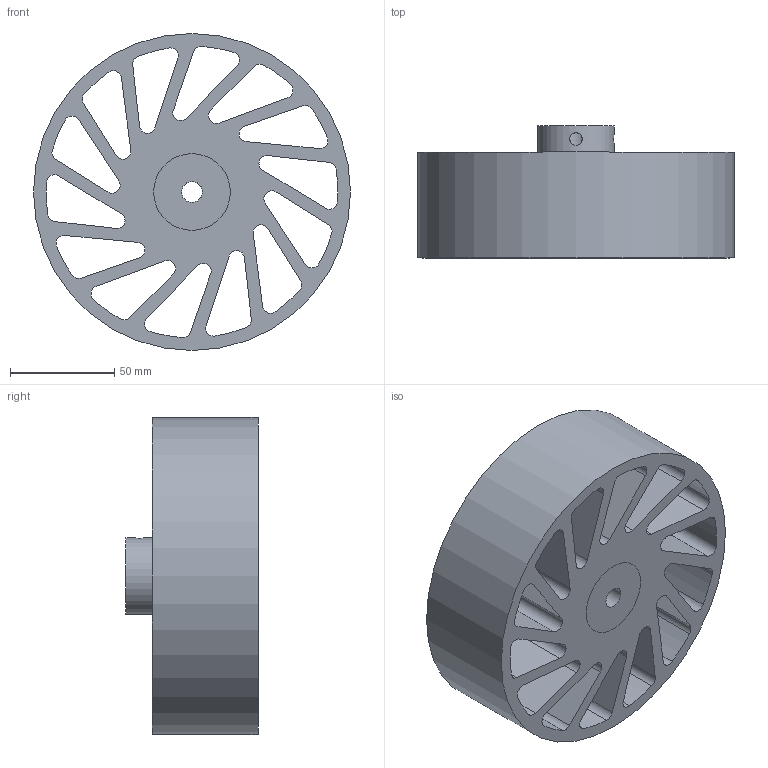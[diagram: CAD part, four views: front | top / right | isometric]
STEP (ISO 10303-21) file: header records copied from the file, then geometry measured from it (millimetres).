
FILE_DESCRIPTION(/* description */ (''),/* implementation_level */ '2;1');
FILE_NAME(/* name */ 'NCWM-590-XXX-YYY.stp',/* time_stamp */ '2023-02-02T16:50:43-06:00',/* author */ ('AG'),/* organization */ ('Meridian Laboratory'),/* preprocessor_version */ 'ST-DEVELOPER v18.1',/* originating_system */ 'Autodesk Inventor 2022',/* authorisation */ '');
FILE_SCHEMA (('AUTOMOTIVE_DESIGN { 1 0 10303 214 3 1 1 }'));
Length unit declared in the file: millimetre
Products named in the file (1): NCWM-540
Bounding box: 152.4 x 63.5 x 152.4 mm (x, y, z)
Volume: 527351.5 mm3; surface area: 134051.5 mm2
Topology: 2 solids, 2 shells, 94 faces, 276 edges, 186 vertices
Faces by surface type: cylinder 62, plane 32
Full cylindrical faces by diameter (mm): 6 x2, 10.025 x1, 36.83 x2, 152.4 x1
Entity records: 3516 total; most frequent: CARTESIAN_POINT 697, DIRECTION 576, ORIENTED_EDGE 552, EDGE_CURVE 276, AXIS2_PLACEMENT_3D 215, VERTEX_POINT 186, LINE 146, VECTOR 146
